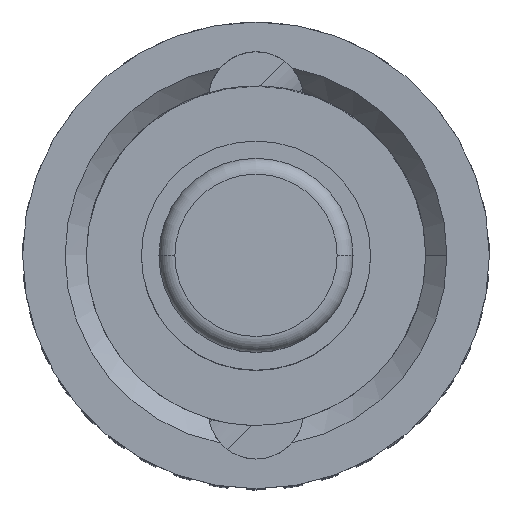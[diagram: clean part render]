
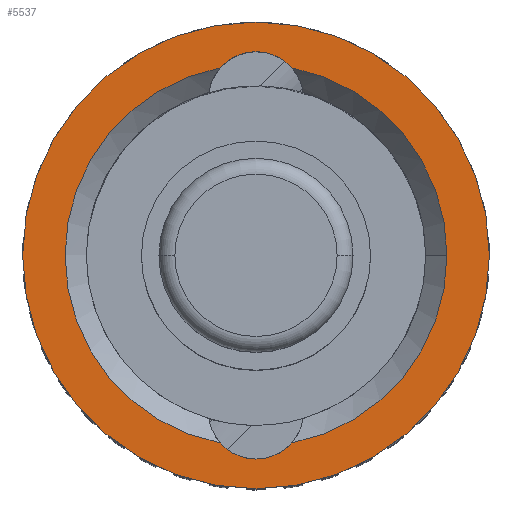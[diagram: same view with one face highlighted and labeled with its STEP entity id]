
A CAD part, top view. The second image highlights one B-rep face of the part: STEP entity #5537.
In plain terms, the highlighted planar face has unit normal (0, 0, 1).
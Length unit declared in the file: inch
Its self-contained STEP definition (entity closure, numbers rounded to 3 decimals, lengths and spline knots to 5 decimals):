
#165 = DIRECTION ( 'NONE',  ( 0., 0., 1. ) ) ;
#287 = EDGE_CURVE ( 'NONE', #13230, #6540, #3141, .T. ) ;
#869 = EDGE_CURVE ( 'NONE', #6540, #8219, #7125, .T. ) ;
#900 = CARTESIAN_POINT ( 'NONE',  ( -0.01685, -0.08841, 0. ) ) ;
#1080 = DIRECTION ( 'NONE',  ( -1., 0., 0. ) ) ;
#1292 = CARTESIAN_POINT ( 'NONE',  ( 0.01685, 0.08841, 0. ) ) ;
#1359 = CARTESIAN_POINT ( 'NONE',  ( -0.11, 0., 0. ) ) ;
#1856 = CARTESIAN_POINT ( 'NONE',  ( 0.11, 0., 0. ) ) ;
#1994 = CIRCLE ( 'NONE', #9542, 0.09 ) ;
#2082 = AXIS2_PLACEMENT_3D ( 'NONE', #3282, #11463, #4454 ) ;
#2193 = PLANE ( 'NONE',  #12772 ) ;
#2535 = DIRECTION ( 'NONE',  ( 0., 0., 1. ) ) ;
#3141 = CIRCLE ( 'NONE', #12553, 0.09 ) ;
#3282 = CARTESIAN_POINT ( 'NONE',  ( 0., 0., 0. ) ) ;
#3618 = CIRCLE ( 'NONE', #5441, 0.09 ) ;
#3695 = EDGE_LOOP ( 'NONE', ( #10135, #3992 ) ) ;
#3860 = EDGE_CURVE ( 'NONE', #14706, #6715, #1994, .T. ) ;
#3992 = ORIENTED_EDGE ( 'NONE', *, *, #13291, .T. ) ;
#4144 = CIRCLE ( 'NONE', #2082, 0.11 ) ;
#4454 = DIRECTION ( 'NONE',  ( 1., 0., 0. ) ) ;
#4742 = DIRECTION ( 'NONE',  ( 0., 0., 1. ) ) ;
#4839 = EDGE_CURVE ( 'NONE', #8219, #14706, #3618, .T. ) ;
#4917 = EDGE_CURVE ( 'NONE', #11453, #6262, #10757, .T. ) ;
#4947 = EDGE_CURVE ( 'NONE', #6715, #13230, #11119, .T. ) ;
#5010 = DIRECTION ( 'NONE',  ( 0., 0., 1. ) ) ;
#5441 = AXIS2_PLACEMENT_3D ( 'NONE', #11783, #4742, #12928 ) ;
#5537 = ADVANCED_FACE ( 'NONE', ( #7919, #10672 ), #2193, .F. ) ;
#6049 = DIRECTION ( 'NONE',  ( 0., 0., 1. ) ) ;
#6088 = CARTESIAN_POINT ( 'NONE',  ( 0., 0.0735, 0. ) ) ;
#6116 = ORIENTED_EDGE ( 'NONE', *, *, #869, .F. ) ;
#6262 = VERTEX_POINT ( 'NONE', #1359 ) ;
#6451 = ORIENTED_EDGE ( 'NONE', *, *, #4947, .F. ) ;
#6540 = VERTEX_POINT ( 'NONE', #900 ) ;
#6715 = VERTEX_POINT ( 'NONE', #1292 ) ;
#7125 = CIRCLE ( 'NONE', #15133, 0.0225 ) ;
#7165 = DIRECTION ( 'NONE',  ( 1., 0., 0. ) ) ;
#7265 = DIRECTION ( 'NONE',  ( -1., 0., 0. ) ) ;
#7919 = FACE_BOUND ( 'NONE', #14751, .T. ) ;
#8086 = DIRECTION ( 'NONE',  ( 0., 0., -1. ) ) ;
#8219 = VERTEX_POINT ( 'NONE', #9848 ) ;
#8333 = CARTESIAN_POINT ( 'NONE',  ( 0., 0., 0. ) ) ;
#8762 = CARTESIAN_POINT ( 'NONE',  ( 0.09, 0., 0. ) ) ;
#9542 = AXIS2_PLACEMENT_3D ( 'NONE', #9548, #2535, #10718 ) ;
#9548 = CARTESIAN_POINT ( 'NONE',  ( 0., 0., 0. ) ) ;
#9848 = CARTESIAN_POINT ( 'NONE',  ( 0.01685, -0.08841, 0. ) ) ;
#10028 = CARTESIAN_POINT ( 'NONE',  ( -0.01685, 0.08841, 0. ) ) ;
#10135 = ORIENTED_EDGE ( 'NONE', *, *, #4917, .T. ) ;
#10144 = AXIS2_PLACEMENT_3D ( 'NONE', #13030, #6049, #14221 ) ;
#10317 = ORIENTED_EDGE ( 'NONE', *, *, #287, .F. ) ;
#10672 = FACE_OUTER_BOUND ( 'NONE', #3695, .T. ) ;
#10718 = DIRECTION ( 'NONE',  ( 1., 0., 0. ) ) ;
#10757 = CIRCLE ( 'NONE', #10144, 0.11 ) ;
#11119 = CIRCLE ( 'NONE', #11710, 0.0225 ) ;
#11453 = VERTEX_POINT ( 'NONE', #1856 ) ;
#11463 = DIRECTION ( 'NONE',  ( 0., 0., 1. ) ) ;
#11710 = AXIS2_PLACEMENT_3D ( 'NONE', #6088, #14264, #7265 ) ;
#11783 = CARTESIAN_POINT ( 'NONE',  ( 0., 0., 0. ) ) ;
#11899 = ORIENTED_EDGE ( 'NONE', *, *, #4839, .F. ) ;
#12034 = CARTESIAN_POINT ( 'NONE',  ( 0., -0.0735, 0. ) ) ;
#12553 = AXIS2_PLACEMENT_3D ( 'NONE', #8333, #165, #7165 ) ;
#12772 = AXIS2_PLACEMENT_3D ( 'NONE', #15079, #8086, #1080 ) ;
#12928 = DIRECTION ( 'NONE',  ( 1., 0., 0. ) ) ;
#13030 = CARTESIAN_POINT ( 'NONE',  ( 0., 0., 0. ) ) ;
#13186 = DIRECTION ( 'NONE',  ( 1., 0., 0. ) ) ;
#13230 = VERTEX_POINT ( 'NONE', #10028 ) ;
#13291 = EDGE_CURVE ( 'NONE', #6262, #11453, #4144, .T. ) ;
#14221 = DIRECTION ( 'NONE',  ( 1., 0., 0. ) ) ;
#14264 = DIRECTION ( 'NONE',  ( 0., 0., 1. ) ) ;
#14548 = ORIENTED_EDGE ( 'NONE', *, *, #3860, .F. ) ;
#14706 = VERTEX_POINT ( 'NONE', #8762 ) ;
#14751 = EDGE_LOOP ( 'NONE', ( #11899, #6116, #10317, #6451, #14548 ) ) ;
#15079 = CARTESIAN_POINT ( 'NONE',  ( 0., 0.1, 0. ) ) ;
#15133 = AXIS2_PLACEMENT_3D ( 'NONE', #12034, #5010, #13186 ) ;
